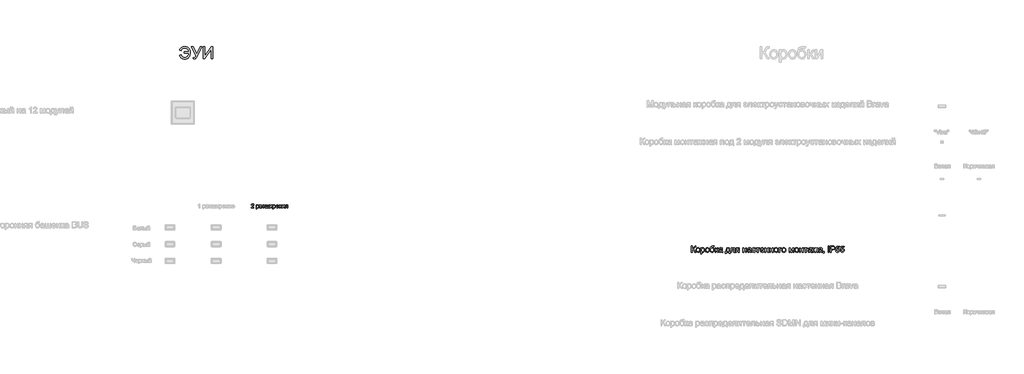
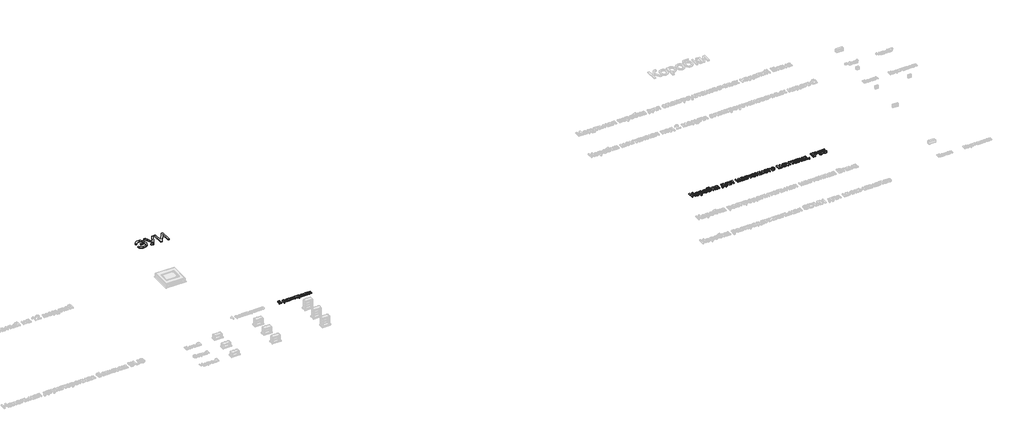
# One storey, part 37 of 48: 3 proxies.
"""IFC4 building model written with IfcOpenShell, lengths in millimetres."""

from ifc_helpers import new_model, si_unit, origin, origin_with_axes, place, context, project, spatial, polyline, outline, extrude, element, save

model = new_model("IFC4")

# Units and contexts
model_context = context("Model", 3, world=origin())
ifc_project = project(units=[si_unit("LENGTHUNIT", "METRE", prefix="MILLI")], contexts=[model_context])

# Site, building, storey
site = spatial("IfcSite", under=ifc_project)
building = spatial("IfcBuilding", under=site)
storey = spatial("IfcBuildingStorey", under=building, Name="Этаж 01", Elevation=0.0)

# Proxies
placement = place(None, origin())
element("IfcBuildingElementProxy", 1, Name="150 мм Arial", ObjectType="150 мм Arial", at=placement, inside=storey, context=model_context, shape_type="SweptSolid", body=[
    extrude(outline(polyline([(38425.9397381, 577.4743136), (38444.7752962, 577.4743136), (38444.7752962, 511.54986), (38457.5270059, 512.7960603), (38465.8365405, 516.5346611), (38480.5334262, 541.7529718), (38490.9260925, 562.814216), (38502.6983164, 573.2436706), (38519.5289177, 577.4743136), (38531.8897527, 577.2535844), (38531.8897527, 558.4180262), (38527.7326861, 558.5283908), (38523.5756196, 558.6387554), (38508.8603398, 554.1138069), (38497.6767271, 534.7264257), (38484.3410048, 511.1084016), (38471.3363763, 503.3093033), (38485.8769121, 494.7928351), (38500.2151129, 477.0425289), (38531.8897527, 426.7898483), (38510.0375622, 426.7898483), (38483.2557529, 469.2434306), (38464.4018007, 491.4083208), (38455.696793, 495.9194738), (38444.7752962, 497.4231914), (38444.7752962, 426.7898483), (38425.9397381, 426.7898483), (38425.9397381, 577.4743136)])), origin_with_axes(), (0.0, 0.0, 1.0), 20.0),
    extrude(outline(polyline([(38541.3075318, 482.1193004), (38545.3818249, 508.7999421), (38557.6047042, 527.5527268), (38572.7062601, 536.7405796), (38590.7876601, 539.8031973), (38610.5751129, 536.0737935), (38626.3802432, 524.8855823), (38636.7407198, 507.1214805), (38640.1942121, 483.6644048), (38638.6675018, 464.6357086), (38634.087371, 450.150355), (38626.5871768, 439.3024347), (38616.3002765, 431.1860382), (38604.0819957, 426.1230622), (38590.7876601, 424.4354036), (38570.761084, 428.1510117), (38554.9743479, 439.2978362), (38544.7242358, 457.4344185), (38541.3075318, 482.1193004)]), holes=[polyline([(38560.1430899, 482.1560886), (38562.3227907, 465.1093567), (38568.8618932, 452.9646523), (38578.7027366, 445.6943844), (38590.7876601, 443.2709617), (38602.8174014, 445.7081799), (38612.6398506, 453.0198346), (38619.1789531, 465.3254873), (38621.3586539, 482.7446998), (38619.1651575, 499.2947911), (38612.5846683, 511.2739485), (38602.7484235, 518.5442165), (38590.7876601, 520.9676391), (38578.7027366, 518.5534135), (38568.8618932, 511.3107367), (38562.3227907, 499.1936235), (38560.1430899, 482.1560886)])]), origin_with_axes(), (0.0, 0.0, 1.0), 20.0),
    extrude(outline(polyline([(38661.384215, 384.4098425), (38661.384215, 537.4487525), (38680.2197731, 537.4487525), (38680.2197731, 518.9810763), (38693.2427958, 534.597667), (38710.8275551, 539.8031973), (38723.5654692, 537.9821814), (38734.7030966, 532.5191337), (38743.7713878, 523.7451482), (38750.3012932, 511.9913184), (38755.5620058, 482.965429), (38754.0766822, 466.8567961), (38749.6207115, 452.4496175), (38742.336648, 440.4750586), (38732.367046, 431.6642848), (38720.7557705, 426.2426239), (38708.5466868, 424.4354036), (38692.1575439, 429.2730518), (38680.2197731, 441.5051281), (38680.2197731, 384.4098425), (38661.384215, 384.4098425)]), holes=[polyline([(38680.2197731, 481.2363836), (38682.2569197, 464.3506), (38688.3683593, 452.541588), (38697.3860667, 445.5886183), (38708.1420166, 443.2709617), (38719.0727104, 445.6713917), (38728.320344, 452.8726818), (38734.6249217, 465.1139552), (38736.7264476, 482.6343352), (38734.6755055, 499.4281483), (38728.5226791, 511.4027072), (38719.5187673, 518.5764061), (38708.9145688, 520.9676391), (38698.2689835, 518.4246548), (38688.9201823, 510.7957019), (38682.3948754, 498.3199038), (38680.2197731, 481.2363836)])]), origin_with_axes(), (0.0, 0.0, 1.0), 20.0),
    extrude(outline(polyline([(38772.0431191, 482.1193004), (38776.1174122, 508.7999421), (38788.3402915, 527.5527268), (38803.4418474, 536.7405796), (38821.5232475, 539.8031973), (38841.3107003, 536.0737935), (38857.1158305, 524.8855823), (38867.4763072, 507.1214805), (38870.9297994, 483.6644048), (38869.4030892, 464.6357086), (38864.8229583, 450.150355), (38857.3227642, 439.3024347), (38847.0358639, 431.1860382), (38834.8175831, 426.1230622), (38821.5232475, 424.4354036), (38801.4966714, 428.1510117), (38785.7099353, 439.2978362), (38775.4598232, 457.4344185), (38772.0431191, 482.1193004)]), holes=[polyline([(38790.8786773, 482.1560886), (38793.0583781, 465.1093567), (38799.5974806, 452.9646523), (38809.438324, 445.6943844), (38821.5232475, 443.2709617), (38833.5529887, 445.7081799), (38843.375438, 453.0198346), (38849.9145405, 465.3254873), (38852.0942413, 482.7446998), (38849.9007449, 499.2947911), (38843.3202557, 511.2739485), (38833.4840109, 518.5442165), (38821.5232475, 520.9676391), (38809.438324, 518.5534135), (38799.5974806, 511.3107367), (38793.0583781, 499.1936235), (38790.8786773, 482.1560886)])]), origin_with_axes(), (0.0, 0.0, 1.0), 20.0),
    extrude(outline(polyline([(38969.8164798, 579.8287583), (38986.2975931, 579.8287583), (38981.4415508, 565.1318726), (38971.8398307, 559.8159778), (38948.7736296, 558.6387554), (38917.7059951, 554.2977479), (38910.5782815, 548.6507592), (38905.7866185, 540.3918084), (38901.7583106, 515.780503), (38918.0738771, 533.8067207), (38927.9928954, 538.3040781), (38939.0983332, 539.8031973), (38958.6972464, 535.9910201), (38974.5989457, 524.5544886), (38985.1387649, 506.6156428), (38988.6520379, 483.2965228), (38986.909197, 465.3162903), (38981.6806741, 450.886119), (38965.1443784, 431.333191), (38953.8504012, 426.1598504), (38939.0983332, 424.4354036), (38922.0975865, 426.6564911), (38909.3550738, 433.3197537), (38899.9786815, 443.4457057), (38893.0762956, 456.054861), (38888.8272585, 475.0421705), (38887.4109128, 504.3025847), (38890.9839667, 540.4423922), (38901.7031283, 562.4831223), (38919.8351122, 573.7265157), (38945.6466327, 577.4743136), (38966.6159064, 577.8973779), (38969.8164798, 579.8287583)]), holes=[polyline([(38969.8164798, 483.885134), (38967.7747347, 498.7061799), (38961.6494995, 510.5749727), (38951.8086561, 518.3694725), (38938.6200866, 520.9676391), (38924.870497, 518.2223197), (38914.6709687, 509.9863615), (38908.3525954, 497.1610755), (38906.246471, 480.6477724), (38908.5733246, 464.6403071), (38915.5538855, 452.8910759), (38925.9465518, 445.6759903), (38938.509722, 443.2709617), (38951.1372714, 446.0530693), (38961.1344647, 454.3993921), (38967.645976, 467.3350427), (38969.8164798, 483.885134)])]), origin_with_axes(), (0.0, 0.0, 1.0), 20.0),
    extrude(outline(polyline([(39012.1964856, 537.4487525), (39031.0320437, 537.4487525), (39031.0320437, 490.3598571), (39043.6503962, 493.7443715), (39053.9878802, 513.4628464), (39062.5779248, 530.4773887), (39070.1562939, 536.0140127), (39083.9334747, 537.4487525), (39087.5387182, 537.4487525), (39087.5387182, 518.5028297), (39082.4619467, 518.6131943), (39073.2648968, 516.6266316), (39066.7901737, 504.2290083), (39059.1934105, 490.8197096), (39048.5432267, 484.253016), (39060.4258152, 476.9229672), (39072.0876744, 461.4811205), (39092.2476077, 426.7898483), (39070.8368756, 426.7898483), (39051.0816125, 460.7453565), (39041.1487986, 475.1111484), (39031.0320437, 478.5876333), (39031.0320437, 426.7898483), (39012.1964856, 426.7898483), (39012.1964856, 537.4487525)])), origin_with_axes(), (0.0, 0.0, 1.0), 20.0),
    extrude(outline(polyline([(39174.6531747, 440.9165169), (39156.3878336, 428.1510117), (39136.2095062, 424.4354036), (39120.4687553, 426.6702867), (39108.8574798, 433.374936), (39101.6975765, 443.5560703), (39099.3109421, 456.2204079), (39102.9161856, 471.1196288), (39112.389147, 481.9353594), (39125.5777165, 488.1157769), (39141.8748889, 490.9484683), (39174.5428101, 497.4231914), (39174.6531747, 501.6170462), (39173.3563906, 510.0231497), (39169.4660385, 515.5229856), (39160.7656293, 519.6064757), (39148.6439176, 520.9676391), (39129.5876303, 517.3440014), (39120.500945, 504.4865257), (39101.6653868, 506.8409705), (39109.813973, 525.2350702), (39126.22151, 536.0140127), (39151.0719388, 539.8031973), (39173.8990166, 536.4554711), (39186.7932805, 528.0493675), (39192.5690278, 515.2654682), (39193.4887328, 498.7843548), (39193.4887328, 475.3502717), (39194.445226, 442.6271682), (39198.1976224, 426.7898483), (39179.3620642, 426.7898483), (39174.6531747, 440.9165169)]), holes=[polyline([(39174.6531747, 478.5876333), (39144.2661219, 472.8118859), (39128.06092, 469.7584654), (39120.7216742, 464.7920584), (39118.1465002, 457.5447831), (39123.7567006, 447.3544519), (39140.2194199, 443.2709617), (39159.2757073, 447.7775162), (39171.5629659, 458.6852173), (39174.5428101, 473.2533443), (39174.6531747, 478.5876333)])]), origin_with_axes(), (0.0, 0.0, 1.0), 20.0),
    extrude(outline(polyline([(39294.7298579, 537.4487525), (39365.363201, 537.4487525), (39365.363201, 445.6254065), (39379.4898696, 445.6254065), (39379.4898696, 396.1820663), (39360.6543114, 396.1820663), (39360.6543114, 426.7898483), (39282.957634, 426.7898483), (39282.957634, 396.1820663), (39264.1220759, 396.1820663), (39264.1220759, 445.6254065), (39275.8942997, 445.6254065), (39284.4521547, 461.0902459), (39290.4440326, 481.5490833), (39294.7298579, 537.4487525)]), holes=[polyline([(39311.2109713, 518.6131943), (39306.7963873, 475.6997596), (39297.0843027, 445.6254065), (39346.5276428, 445.6254065), (39346.5276428, 518.6131943), (39311.2109713, 518.6131943)])]), origin_with_axes(), (0.0, 0.0, 1.0), 20.0),
    extrude(outline(polyline([(39410.0976516, 537.4487525), (39494.8576633, 537.4487525), (39494.8576633, 426.9002129), (39476.0221051, 426.9002129), (39476.0221051, 518.6131943), (39428.9332097, 518.6131943), (39428.9332097, 465.822128), (39427.6640168, 441.4683399), (39420.692653, 431.1860382), (39404.2115397, 426.7898483), (39388.9076487, 427.7463415), (39388.9076487, 445.6254065), (39397.3321463, 445.6254065), (39405.8486145, 446.7842348), (39409.251523, 450.4630547), (39410.0976516, 466.8889858), (39410.0976516, 537.4487525)])), origin_with_axes(), (0.0, 0.0, 1.0), 20.0),
    extrude(outline(polyline([(39607.8710122, 537.4487525), (39607.8710122, 426.7898483), (39589.035454, 426.7898483), (39589.035454, 469.1698542), (39578.7715464, 469.1698542), (39564.7920306, 466.7786212), (39551.6586433, 450.702178), (39536.6490579, 426.7898483), (39514.8704438, 426.7898483), (39533.7795784, 457.0297483), (39542.1304996, 467.8822672), (39549.8192333, 472.7015213), (39536.9433635, 476.6470557), (39527.8934664, 484.1426514), (39522.5407834, 494.1122534), (39520.7565557, 505.4798071), (39523.1937739, 518.374071), (39530.5054286, 528.5827964), (39542.4340023, 535.2322635), (39558.7219776, 537.4487525), (39607.8710122, 537.4487525)]), holes=[polyline([(39589.035454, 518.6131943), (39564.2034194, 518.6131943), (39551.3781333, 517.5233439), (39544.0986683, 514.2537927), (39539.5921139, 504.0450673), (39541.2521814, 496.8667699), (39546.2323839, 491.8865674), (39569.7584375, 488.0054123), (39589.035454, 488.0054123), (39589.035454, 518.6131943)])]), origin_with_axes(), (0.0, 0.0, 1.0), 20.0),
    extrude(outline(polyline([(39694.9854686, 537.4487525), (39713.8210268, 537.4487525), (39713.8210268, 495.0687466), (39763.2643669, 495.0687466), (39763.2643669, 537.4487525), (39782.0999251, 537.4487525), (39782.0999251, 426.7898483), (39763.2643669, 426.7898483), (39763.2643669, 476.2331885), (39713.8210268, 476.2331885), (39713.8210268, 426.7898483), (39694.9854686, 426.7898483), (39694.9854686, 537.4487525)])), origin_with_axes(), (0.0, 0.0, 1.0), 20.0),
    extrude(outline(polyline([(39880.9866054, 440.9165169), (39862.7212643, 428.1510117), (39842.5429369, 424.4354036), (39826.802186, 426.6702867), (39815.1909106, 433.374936), (39808.0310072, 443.5560703), (39805.6443728, 456.2204079), (39809.2496163, 471.1196288), (39818.7225777, 481.9353594), (39831.9111472, 488.1157769), (39848.2083196, 490.9484683), (39880.8762408, 497.4231914), (39880.9866054, 501.6170462), (39879.6898214, 510.0231497), (39875.7994693, 515.5229856), (39867.0990601, 519.6064757), (39854.9773483, 520.9676391), (39835.921061, 517.3440014), (39826.8343757, 504.4865257), (39807.9988176, 506.8409705), (39816.1474038, 525.2350702), (39832.5549407, 536.0140127), (39857.4053695, 539.8031973), (39880.2324473, 536.4554711), (39893.1267112, 528.0493675), (39898.9024586, 515.2654682), (39899.8221636, 498.7843548), (39899.8221636, 475.3502717), (39900.7786567, 442.6271682), (39904.5310531, 426.7898483), (39885.6954949, 426.7898483), (39880.9866054, 440.9165169)]), holes=[polyline([(39880.9866054, 478.5876333), (39850.5995526, 472.8118859), (39834.3943507, 469.7584654), (39827.0551049, 464.7920584), (39824.4799309, 457.5447831), (39830.0901314, 447.3544519), (39846.5528507, 443.2709617), (39865.609138, 447.7775162), (39877.8963966, 458.6852173), (39880.8762408, 473.2533443), (39880.9866054, 478.5876333)])]), origin_with_axes(), (0.0, 0.0, 1.0), 20.0),
    extrude(outline(polyline([(39996.3543991, 466.8154094), (40015.1899572, 464.4609646), (40009.9384418, 447.7085383), (40000.0700072, 435.0487991), (39986.5135557, 427.0887525), (39970.1979892, 424.4354036), (39950.1622161, 428.1372161), (39934.4950416, 439.2426539), (39924.3828853, 457.2642731), (39921.0121665, 481.7146302), (39922.4515048, 498.4762536), (39926.7695197, 513.0029939), (39934.0351891, 524.733831), (39944.3174909, 533.1077449), (39956.6185451, 538.1293342), (39969.9404718, 539.8031973), (39985.8559667, 537.5039348), (39998.5800852, 530.6061474), (40007.7081572, 519.477717), (40012.8355125, 504.4865257), (39993.9999543, 502.1320809), (39985.2627569, 516.2403555), (39970.0876246, 520.9676391), (39957.9153291, 518.6407855), (39948.2538282, 511.6602246), (39941.9492505, 499.6488775), (39939.8477246, 482.229665), (39941.9032653, 464.5759278), (39948.0698872, 452.5231939), (39957.5566442, 445.5840198), (39969.5725898, 443.2709617), (39979.3260612, 444.7148985), (39987.3228961, 449.046709), (39993.1400302, 456.3767578), (39996.3543991, 466.8154094)])), origin_with_axes(), (0.0, 0.0, 1.0), 20.0),
    extrude(outline(polyline([(40022.2532916, 537.4487525), (40111.7221928, 537.4487525), (40111.7221928, 518.6131943), (40076.4055212, 518.6131943), (40076.4055212, 426.7898483), (40057.5699631, 426.7898483), (40057.5699631, 518.6131943), (40022.2532916, 518.6131943), (40022.2532916, 537.4487525)])), origin_with_axes(), (0.0, 0.0, 1.0), 20.0),
    extrude(outline(polyline([(40205.6792543, 459.7520751), (40224.1469305, 457.3976303), (40217.4928649, 443.4824939), (40206.8748708, 433.0806304), (40192.5320715, 426.5967103), (40174.7035904, 424.4354036), (40152.6030795, 428.1648073), (40135.5977343, 439.3530185), (40124.7544125, 457.2734702), (40121.1399719, 481.1995954), (40124.7912007, 505.9304625), (40135.7448871, 524.4257299), (40152.520306, 535.9588304), (40173.6367326, 539.8031973), (40194.09557, 535.9680275), (40210.4433262, 524.4625181), (40221.1624878, 506.0040389), (40224.7355417, 481.30996), (40224.6251771, 476.2331885), (40139.97553, 476.2331885), (40143.2358842, 462.134111), (40150.8096548, 451.7690358), (40161.7403485, 445.3954802), (40175.0714723, 443.2709617), (40193.5391485, 447.2072991), (40205.6792543, 459.7520751)]), holes=[polyline([(40139.97553, 495.0687466), (40205.8999835, 495.0687466), (40203.3524007, 505.0199546), (40198.3584026, 512.1384712), (40187.3771251, 518.7603471), (40173.5631562, 520.9676391), (40160.8666288, 519.206404), (40150.3681964, 513.9226989), (40143.0703373, 505.6867407), (40139.97553, 495.0687466)])]), origin_with_axes(), (0.0, 0.0, 1.0), 20.0),
    extrude(outline(polyline([(40243.5710999, 537.4487525), (40262.406658, 537.4487525), (40262.406658, 495.0687466), (40311.8499982, 495.0687466), (40311.8499982, 537.4487525), (40330.6855563, 537.4487525), (40330.6855563, 426.7898483), (40311.8499982, 426.7898483), (40311.8499982, 476.2331885), (40262.406658, 476.2331885), (40262.406658, 426.7898483), (40243.5710999, 426.7898483), (40243.5710999, 537.4487525)])), origin_with_axes(), (0.0, 0.0, 1.0), 20.0),
    extrude(outline(polyline([(40358.9388935, 537.4487525), (40377.7744517, 537.4487525), (40377.7744517, 495.0687466), (40427.2177918, 495.0687466), (40427.2177918, 537.4487525), (40446.05335, 537.4487525), (40446.05335, 426.7898483), (40427.2177918, 426.7898483), (40427.2177918, 476.2331885), (40377.7744517, 476.2331885), (40377.7744517, 426.7898483), (40358.9388935, 426.7898483), (40358.9388935, 537.4487525)])), origin_with_axes(), (0.0, 0.0, 1.0), 20.0),
    extrude(outline(polyline([(40469.5977977, 482.1193004), (40473.6720908, 508.7999421), (40485.8949701, 527.5527268), (40500.996526, 536.7405796), (40519.077926, 539.8031973), (40538.8653789, 536.0737935), (40554.6705091, 524.8855823), (40565.0309858, 507.1214805), (40568.484478, 483.6644048), (40566.9577677, 464.6357086), (40562.3776369, 450.150355), (40554.8774427, 439.3024347), (40544.5905424, 431.1860382), (40532.3722616, 426.1230622), (40519.077926, 424.4354036), (40499.0513499, 428.1510117), (40483.2646138, 439.2978362), (40473.0145017, 457.4344185), (40469.5977977, 482.1193004)]), holes=[polyline([(40488.4333558, 482.1560886), (40490.6130567, 465.1093567), (40497.1521591, 452.9646523), (40506.9930025, 445.6943844), (40519.077926, 443.2709617), (40531.1076673, 445.7081799), (40540.9301166, 453.0198346), (40547.469219, 465.3254873), (40549.6489198, 482.7446998), (40547.4554234, 499.2947911), (40540.8749343, 511.2739485), (40531.0386894, 518.5442165), (40519.077926, 520.9676391), (40506.9930025, 518.5534135), (40497.1521591, 511.3107367), (40490.6130567, 499.1936235), (40488.4333558, 482.1560886)])]), origin_with_axes(), (0.0, 0.0, 1.0), 20.0),
    extrude(outline(polyline([(40589.6744809, 537.4487525), (40650.8900449, 537.4487525), (40650.8900449, 518.6131943), (40608.5100391, 518.6131943), (40608.5100391, 426.7898483), (40589.6744809, 426.7898483), (40589.6744809, 537.4487525)])), origin_with_axes(), (0.0, 0.0, 1.0), 20.0),
    extrude(outline(polyline([(40660.307824, 482.1193004), (40664.3821171, 508.7999421), (40676.6049964, 527.5527268), (40691.7065523, 536.7405796), (40709.7879523, 539.8031973), (40729.5754052, 536.0737935), (40745.3805354, 524.8855823), (40755.7410121, 507.1214805), (40759.1945043, 483.6644048), (40757.667794, 464.6357086), (40753.0876632, 450.150355), (40745.587469, 439.3024347), (40735.3005687, 431.1860382), (40723.0822879, 426.1230622), (40709.7879523, 424.4354036), (40689.7613762, 428.1510117), (40673.9746401, 439.2978362), (40663.724528, 457.4344185), (40660.307824, 482.1193004)]), holes=[polyline([(40679.1433821, 482.1560886), (40681.323083, 465.1093567), (40687.8621854, 452.9646523), (40697.7030288, 445.6943844), (40709.7879523, 443.2709617), (40721.8176936, 445.7081799), (40731.6401429, 453.0198346), (40738.1792453, 465.3254873), (40740.3589461, 482.7446998), (40738.1654497, 499.2947911), (40731.5849606, 511.2739485), (40721.7487157, 518.5442165), (40709.7879523, 520.9676391), (40697.7030288, 518.5534135), (40687.8621854, 511.3107367), (40681.323083, 499.1936235), (40679.1433821, 482.1560886)])]), origin_with_axes(), (0.0, 0.0, 1.0), 20.0),
    extrude(outline(polyline([(40839.2456264, 537.4487525), (40871.6560302, 537.4487525), (40896.6352177, 448.862768), (40923.5641797, 537.4487525), (40954.6134201, 537.4487525), (40954.6134201, 426.7898483), (40935.777862, 426.7898483), (40935.777862, 515.8908676), (40908.7017471, 426.7898483), (40883.9800771, 426.7898483), (40858.0811846, 520.1582987), (40858.0811846, 426.7898483), (40839.2456264, 426.7898483), (40839.2456264, 537.4487525)])), origin_with_axes(), (0.0, 0.0, 1.0), 20.0),
    extrude(outline(polyline([(40978.1578678, 482.1193004), (40982.2321609, 508.7999421), (40994.4550402, 527.5527268), (41009.5565961, 536.7405796), (41027.6379962, 539.8031973), (41047.425449, 536.0737935), (41063.2305792, 524.8855823), (41073.5910559, 507.1214805), (41077.0445481, 483.6644048), (41075.5178378, 464.6357086), (41070.937707, 450.150355), (41063.4375128, 439.3024347), (41053.1506125, 431.1860382), (41040.9323318, 426.1230622), (41027.6379962, 424.4354036), (41007.6114201, 428.1510117), (40991.8246839, 439.2978362), (40981.5745719, 457.4344185), (40978.1578678, 482.1193004)]), holes=[polyline([(40996.993426, 482.1560886), (40999.1731268, 465.1093567), (41005.7122293, 452.9646523), (41015.5530726, 445.6943844), (41027.6379962, 443.2709617), (41039.6677374, 445.7081799), (41049.4901867, 453.0198346), (41056.0292891, 465.3254873), (41058.20899, 482.7446998), (41056.0154936, 499.2947911), (41049.4350044, 511.2739485), (41039.5987595, 518.5442165), (41027.6379962, 520.9676391), (41015.5530726, 518.5534135), (41005.7122293, 511.3107367), (40999.1731268, 499.1936235), (40996.993426, 482.1560886)])]), origin_with_axes(), (0.0, 0.0, 1.0), 20.0),
    extrude(outline(polyline([(41098.234551, 537.4487525), (41117.0701092, 537.4487525), (41117.0701092, 495.0687466), (41166.5134494, 495.0687466), (41166.5134494, 537.4487525), (41185.3490075, 537.4487525), (41185.3490075, 426.7898483), (41166.5134494, 426.7898483), (41166.5134494, 476.2331885), (41117.0701092, 476.2331885), (41117.0701092, 426.7898483), (41098.234551, 426.7898483), (41098.234551, 537.4487525)])), origin_with_axes(), (0.0, 0.0, 1.0), 20.0),
    extrude(outline(polyline([(41204.1845657, 537.4487525), (41293.6534669, 537.4487525), (41293.6534669, 518.6131943), (41258.3367953, 518.6131943), (41258.3367953, 426.7898483), (41239.5012372, 426.7898483), (41239.5012372, 518.6131943), (41204.1845657, 518.6131943), (41204.1845657, 537.4487525)])), origin_with_axes(), (0.0, 0.0, 1.0), 20.0),
    extrude(outline(polyline([(41380.7679233, 440.9165169), (41362.5025823, 428.1510117), (41342.3242548, 424.4354036), (41326.583504, 426.6702867), (41314.9722285, 433.374936), (41307.8123252, 443.5560703), (41305.4256907, 456.2204079), (41309.0309343, 471.1196288), (41318.5038957, 481.9353594), (41331.6924652, 488.1157769), (41347.9896376, 490.9484683), (41380.6575587, 497.4231914), (41380.7679233, 501.6170462), (41379.4711393, 510.0231497), (41375.5807872, 515.5229856), (41366.880378, 519.6064757), (41354.7586663, 520.9676391), (41335.7023789, 517.3440014), (41326.6156937, 504.4865257), (41307.7801355, 506.8409705), (41315.9287217, 525.2350702), (41332.3362587, 536.0140127), (41357.1866875, 539.8031973), (41380.0137653, 536.4554711), (41392.9080292, 528.0493675), (41398.6837765, 515.2654682), (41399.6034815, 498.7843548), (41399.6034815, 475.3502717), (41400.5599747, 442.6271682), (41404.312371, 426.7898483), (41385.4768129, 426.7898483), (41380.7679233, 440.9165169)]), holes=[polyline([(41380.7679233, 478.5876333), (41350.3808705, 472.8118859), (41334.1756687, 469.7584654), (41326.8364228, 464.7920584), (41324.2612489, 457.5447831), (41329.8714493, 447.3544519), (41346.3341686, 443.2709617), (41365.3904559, 447.7775162), (41377.6777146, 458.6852173), (41380.6575587, 473.2533443), (41380.7679233, 478.5876333)])]), origin_with_axes(), (0.0, 0.0, 1.0), 20.0),
    extrude(outline(polyline([(41493.7812723, 537.4487525), (41493.7812723, 490.3598571), (41504.7625498, 494.2410121), (41515.1552162, 514.3825514), (41527.5528394, 533.6963561), (41545.174387, 537.4487525), (41552.6423915, 537.4487525), (41552.6423915, 518.5028297), (41547.4552554, 518.6131943), (41537.7431707, 516.6634198), (41531.0109302, 504.4497375), (41523.1934378, 491.0588329), (41512.0282192, 484.253016), (41524.343069, 476.9229672), (41536.3452191, 461.4811205), (41557.351281, 426.7898483), (41535.7566079, 426.7898483), (41515.0816398, 461.0028739), (41504.5418206, 475.221513), (41493.7812723, 478.5876333), (41493.7812723, 426.7898483), (41474.9457141, 426.7898483), (41474.9457141, 478.5876333), (41464.2219539, 475.2950894), (41453.6085584, 461.0764503), (41432.9335903, 426.7898483), (41411.3757053, 426.7898483), (41432.3081909, 461.4811205), (41444.4023115, 476.9229672), (41456.7723435, 484.253016), (41444.9265433, 491.7578087), (41434.7730002, 511.0716134), (41429.8065933, 517.4359719), (41421.6764012, 518.7235589), (41416.0845949, 518.6131943), (41416.0845949, 537.4487525), (41418.9172862, 537.4487525), (41435.4351878, 536.2715301), (41444.0068383, 531.268335), (41453.6085584, 514.3825514), (41463.8908602, 494.3697708), (41474.9457141, 490.3598571), (41474.9457141, 537.4487525), (41493.7812723, 537.4487525)])), origin_with_axes(), (0.0, 0.0, 1.0), 20.0),
    extrude(outline(polyline([(41637.4024032, 440.9165169), (41619.1370621, 428.1510117), (41598.9587347, 424.4354036), (41583.2179838, 426.6702867), (41571.6067083, 433.374936), (41564.446805, 443.5560703), (41562.0601706, 456.2204079), (41565.6654141, 471.1196288), (41575.1383755, 481.9353594), (41588.326945, 488.1157769), (41604.6241174, 490.9484683), (41637.2920386, 497.4231914), (41637.4024032, 501.6170462), (41636.1056191, 510.0231497), (41632.215267, 515.5229856), (41623.5148579, 519.6064757), (41611.3931461, 520.9676391), (41592.3368588, 517.3440014), (41583.2501735, 504.4865257), (41564.4146153, 506.8409705), (41572.5632015, 525.2350702), (41588.9707385, 536.0140127), (41613.8211673, 539.8031973), (41636.6482451, 536.4554711), (41649.542509, 528.0493675), (41655.3182563, 515.2654682), (41656.2379613, 498.7843548), (41656.2379613, 475.3502717), (41657.1944545, 442.6271682), (41660.9468509, 426.7898483), (41642.1112927, 426.7898483), (41637.4024032, 440.9165169)]), holes=[polyline([(41637.4024032, 478.5876333), (41607.0153504, 472.8118859), (41590.8101485, 469.7584654), (41583.4709027, 464.7920584), (41580.8957287, 457.5447831), (41586.5059291, 447.3544519), (41602.9686484, 443.2709617), (41622.0249358, 447.7775162), (41634.3121944, 458.6852173), (41637.2920386, 473.2533443), (41637.4024032, 478.5876333)])]), origin_with_axes(), (0.0, 0.0, 1.0), 20.0),
    extrude(outline(polyline([(41686.8457433, 426.7898483), (41686.8457433, 445.6254065), (41705.6813015, 445.6254065), (41705.6813015, 426.7898483), (41702.2967871, 407.5312259), (41691.5546329, 396.1820663), (41686.8457433, 403.2454006), (41693.7619248, 411.3755927), (41696.2267342, 426.7898483), (41686.8457433, 426.7898483)])), origin_with_axes(), (0.0, 0.0, 1.0), 20.0),
    extrude(outline(polyline([(41804.5679818, 426.7898483), (41804.5679818, 577.4743136), (41823.4035399, 577.4743136), (41823.4035399, 426.7898483), (41804.5679818, 426.7898483)])), origin_with_axes(), (0.0, 0.0, 1.0), 20.0),
    extrude(outline(polyline([(41861.0746562, 426.7898483), (41861.0746562, 577.4743136), (41916.9191431, 577.4743136), (41939.4335212, 576.0395738), (41957.7356505, 568.9946336), (41969.5998448, 554.4265066), (41974.0880052, 533.8802971), (41971.0575772, 516.1207938), (41961.9662934, 501.3227406), (41944.9655467, 491.3347444), (41918.2067301, 488.0054123), (41879.9102144, 488.0054123), (41879.9102144, 426.7898483), (41861.0746562, 426.7898483)]), holes=[polyline([(41879.9102144, 506.8409705), (41919.3103761, 506.8409705), (41936.0122187, 508.5700159), (41947.0486785, 513.757152), (41953.2015049, 522.0804821), (41955.252447, 533.2181095), (41950.4147988, 548.8163061), (41937.7044758, 557.3511684), (41918.8689177, 558.6387554), (41879.9102144, 558.6387554), (41879.9102144, 506.8409705)])]), origin_with_axes(), (0.0, 0.0, 1.0), 20.0),
    extrude(outline(polyline([(41992.9235633, 466.8154094), (42011.7591215, 469.1698542), (42015.2172122, 457.8620813), (42021.2504769, 449.7640789), (42029.8313245, 444.894241), (42040.9321637, 443.2709617), (42054.4334329, 445.5288375), (42064.5501878, 452.3024647), (42070.868561, 462.8100942), (42072.9746855, 476.2699767), (42071.0019183, 488.9435114), (42065.0836167, 498.637202), (42055.1737954, 504.7900284), (42041.2264693, 506.8409705), (42024.6901736, 503.5668207), (42014.1135662, 495.0687466), (41995.2780081, 497.4231914), (42011.7591215, 575.1198688), (42084.7469093, 575.1198688), (42084.7469093, 556.2843106), (42026.9894361, 556.2843106), (42018.9328204, 514.7872216), (42032.3881043, 522.9542019), (42046.4871818, 525.6765286), (42064.0857368, 522.3012113), (42078.6952505, 512.1752594), (42088.5314953, 496.7426097), (42091.8102436, 477.4471991), (42088.8579906, 458.6116409), (42080.0012316, 442.4984095), (42063.0418716, 428.9511551), (42040.8585873, 424.4354036), (42022.3587215, 427.3370728), (42007.620449, 436.0420805), (41997.5174897, 449.5387512), (41992.9235633, 466.8154094)])), origin_with_axes(), (0.0, 0.0, 1.0), 20.0),
    extrude(outline(polyline([(42108.291357, 466.8154094), (42127.1269152, 469.1698542), (42130.5850059, 457.8620813), (42136.6182706, 449.7640789), (42145.1991182, 444.894241), (42156.2999574, 443.2709617), (42169.8012266, 445.5288375), (42179.9179815, 452.3024647), (42186.2363547, 462.8100942), (42188.3424792, 476.2699767), (42186.369712, 488.9435114), (42180.4514104, 498.637202), (42170.5415891, 504.7900284), (42156.594263, 506.8409705), (42140.0579673, 503.5668207), (42129.4813599, 495.0687466), (42110.6458018, 497.4231914), (42127.1269152, 575.1198688), (42200.114703, 575.1198688), (42200.114703, 556.2843106), (42142.3572298, 556.2843106), (42134.3006141, 514.7872216), (42147.755898, 522.9542019), (42161.8549755, 525.6765286), (42179.4535304, 522.3012113), (42194.0630442, 512.1752594), (42203.899289, 496.7426097), (42207.1780373, 477.4471991), (42204.2257843, 458.6116409), (42195.3690253, 442.4984095), (42178.4096653, 428.9511551), (42156.226381, 424.4354036), (42137.7265151, 427.3370728), (42122.9882427, 436.0420805), (42112.8852834, 449.5387512), (42108.291357, 466.8154094)])), origin_with_axes(), (0.0, 0.0, 1.0), 20.0),
])
element("IfcBuildingElementProxy", 2, Name="300 мм Arial", ObjectType="300 мм Arial", at=placement, inside=storey, context=model_context, shape_type="SweptSolid", body=[
    extrude(outline(polyline([(25892.2439846, 5383.9192769), (26005.2573335, 5383.9192769), (26002.5579994, 5404.4677856), (25996.9615945, 5422.7768127), (25988.468119, 5438.8463581), (25977.0775727, 5452.6764218), (25963.0152834, 5463.7979544), (25946.5065789, 5471.7419062), (25927.5514591, 5476.5082773), (25906.149924, 5478.0970677), (25875.7306815, 5474.2710949), (25851.5010536, 5462.7931767), (25833.4610403, 5443.6633129), (25821.6106415, 5416.8815037), (25783.9395252, 5426.2992828), (25790.726948, 5446.1925017), (25800.0527566, 5463.7864581), (25811.916951, 5479.081152), (25826.3195311, 5492.0765835), (25842.9431987, 5502.4416587), (25861.4706557, 5509.8452839), (25881.901902, 5514.287459), (25904.2369376, 5515.768184), (25945.3109624, 5510.3327275), (25980.2413579, 5494.0263581), (26007.9888573, 5469.2678998), (26027.5141942, 5438.4761768), (26039.0748859, 5402.8743967), (26042.9284498, 5363.6857672), (26041.755826, 5331.4662022), (26035.957086, 5301.9091831), (26025.53223, 5275.01471), (26010.4812579, 5250.7827829), (25990.8409578, 5230.7447104), (25966.6481181, 5216.4318016), (25937.9027387, 5207.8440562), (25904.6048196, 5204.9814745), (25880.9178177, 5206.5265788), (25859.5208811, 5211.161892), (25840.41401, 5218.8874139), (25823.5972043, 5229.7031445), (25809.070464, 5243.609084), (25796.8337892, 5260.6052321), (25786.8871797, 5280.6915891), (25779.2306357, 5303.8681548), (25816.901752, 5313.2859338), (25829.630469, 5282.3838463), (25849.2017912, 5260.3109265), (25875.6157184, 5247.0671747), (25908.8722508, 5242.6525908), (25928.5815287, 5244.3862347), (25946.4330025, 5249.5871664), (25962.4266722, 5258.2553859), (25976.5625379, 5270.3908932), (25988.2611853, 5285.5338358), (25996.9432004, 5303.2243613), (26002.6085832, 5323.4624695), (26005.2573335, 5346.2481606), (25892.2439846, 5346.2481606), (25892.2439846, 5383.9192769)])), origin_with_axes(), (0.0, 0.0, 1.0), 20.0),
    extrude(outline(polyline([(26073.5362318, 5511.0592945), (26115.2540501, 5511.0592945), (26205.3851389, 5332.5629504), (26286.4663306, 5511.0592945), (26327.8162669, 5511.0592945), (26213.4049664, 5276.2770051), (26196.1329067, 5239.8198994), (26182.2821496, 5218.5931083), (26167.5116875, 5208.3843829), (26147.4805129, 5204.9814745), (26113.5617929, 5209.690364), (26113.5617929, 5242.6525908), (26143.2130817, 5242.6525908), (26155.0772761, 5244.7495181), (26165.212425, 5251.0403003), (26174.9429038, 5264.7806928), (26185.5930876, 5289.2264514), (26073.5362318, 5511.0592945)])), origin_with_axes(), (0.0, 0.0, 1.0), 20.0),
    extrude(outline(polyline([(26363.1329384, 5511.0592945), (26400.8040547, 5511.0592945), (26400.8040547, 5272.377456), (26558.5518543, 5511.0592945), (26598.5774153, 5511.0592945), (26598.5774153, 5209.690364), (26560.906299, 5209.690364), (26560.906299, 5447.7100149), (26403.5263815, 5209.690364), (26363.1329384, 5209.690364), (26363.1329384, 5511.0592945)])), origin_with_axes(), (0.0, 0.0, 1.0), 20.0),
])
element("IfcBuildingElementProxy", 3, Name="100 мм Arial", ObjectType="100 мм Arial", at=placement, inside=storey, context=model_context, shape_type="SweptSolid", body=[
    extrude(outline(polyline([(27616.7034386, 1535.9332134), (27616.7034386, 1523.3761747), (27550.7789851, 1523.3761747), (27552.1278857, 1532.0336643), (27559.7553058, 1545.3632552), (27575.4761297, 1559.9191195), (27597.1566419, 1580.8393423), (27602.57677, 1595.0641128), (27597.4632103, 1606.5788192), (27584.1090938, 1611.2754461), (27570.1908917, 1606.6891838), (27564.9056537, 1594.0095177), (27552.3486149, 1595.5791476), (27555.3928384, 1607.7253848), (27561.9748605, 1616.5974722), (27571.7513245, 1622.0237317), (27584.378874, 1623.8324848), (27597.098394, 1621.8213966), (27606.8564639, 1615.7881319), (27613.0644726, 1606.775023), (27615.1338088, 1595.8244023), (27612.9019913, 1583.9172883), (27605.4830378, 1571.6055042), (27587.4936082, 1554.4008896), (27573.0481085, 1542.3220974), (27567.3827258, 1535.9332134), (27616.7034386, 1535.9332134)])), origin_with_axes(), (0.0, 0.0, 1.0), 20.0),
    extrude(outline(polyline([(27671.6404832, 1495.1228374), (27671.6404832, 1597.1487774), (27684.197522, 1597.1487774), (27684.197522, 1584.8369933), (27692.8795371, 1595.2480538), (27704.60271, 1598.7184073), (27720.5197377, 1593.8623649), (27730.9185354, 1580.1771547), (27734.4256771, 1560.8265618), (27730.4648143, 1540.4826874), (27718.9623705, 1526.625799), (27703.0821311, 1521.8065448), (27692.1560358, 1525.0316436), (27684.197522, 1533.1863612), (27684.197522, 1495.1228374), (27671.6404832, 1495.1228374)]), holes=[polyline([(27684.197522, 1559.6738649), (27685.5556197, 1548.4166758), (27689.6299128, 1540.5440011), (27695.6417177, 1535.908688), (27702.812351, 1534.3635836), (27710.0994801, 1535.9638703), (27716.2645692, 1540.7647303), (27720.467621, 1548.9255792), (27721.8686383, 1560.6058326), (27720.5013436, 1571.801708), (27716.3994593, 1579.7847473), (27710.3968514, 1584.5672132), (27703.3273858, 1586.1613685), (27696.2303289, 1584.4660457), (27689.9977948, 1579.3800771), (27685.6475902, 1571.0628783), (27684.197522, 1559.6738649)])]), origin_with_axes(), (0.0, 0.0, 1.0), 20.0),
    extrude(outline(polyline([(27795.6412411, 1532.7939537), (27783.464347, 1524.2836169), (27770.0121287, 1521.8065448), (27759.5182948, 1523.2964669), (27751.7774445, 1527.7662331), (27747.0041756, 1534.553656), (27745.413086, 1542.9965477), (27747.8165817, 1552.9293616), (27754.1318893, 1560.1398487), (27762.924269, 1564.2601271), (27773.7890506, 1566.148588), (27795.5676647, 1570.4650701), (27795.6412411, 1573.2609732), (27792.1831503, 1582.5315995), (27778.3017364, 1586.1613685), (27765.5975448, 1583.7456101), (27759.5397546, 1575.1739596), (27746.9827158, 1576.7435894), (27752.4151066, 1589.0063226), (27763.3534646, 1596.1922842), (27779.9204171, 1598.7184073), (27795.138469, 1596.4865898), (27803.734645, 1590.8825208), (27807.5851432, 1582.3599212), (27808.1982798, 1571.3725123), (27808.1982798, 1555.7497902), (27808.835942, 1533.9343879), (27811.3375395, 1523.3761747), (27798.7805008, 1523.3761747), (27795.6412411, 1532.7939537)]), holes=[polyline([(27795.6412411, 1557.9080313), (27775.3832059, 1554.0575331), (27764.5797379, 1552.0219194), (27759.6869074, 1548.7109814), (27757.9701248, 1543.8794645), (27761.7102584, 1537.0859104), (27772.6854046, 1534.3635836), (27785.3895961, 1537.3679532), (27793.5811019, 1544.639754), (27795.5676647, 1554.3518387), (27795.6412411, 1557.9080313)])]), origin_with_axes(), (0.0, 0.0, 1.0), 20.0),
    extrude(outline(polyline([(27872.5531035, 1550.0598821), (27885.1101423, 1548.4902522), (27881.609132, 1537.321968), (27875.0301756, 1528.8821419), (27865.9925413, 1523.5754441), (27855.115497, 1521.8065448), (27841.7583149, 1524.2744199), (27831.3135319, 1531.678045), (27824.5720943, 1543.6924579), (27822.3249485, 1559.9926959), (27826.1631839, 1580.8516051), (27837.8618314, 1594.2547724), (27854.9438187, 1598.7184073), (27865.5541486, 1597.1855656), (27874.0368942, 1592.5870407), (27880.1222756, 1585.1680871), (27883.5405125, 1575.1739596), (27870.9834737, 1573.6043297), (27865.1586754, 1583.0098461), (27855.0419206, 1586.1613685), (27846.9270569, 1584.6101328), (27840.4860563, 1579.9564255), (27836.2830045, 1571.9488608), (27834.8819872, 1560.3360525), (27836.2523477, 1548.5668943), (27840.363429, 1540.5317384), (27846.6879336, 1535.9056223), (27854.698564, 1534.3635836), (27866.5321015, 1538.2140818), (27872.5531035, 1550.0598821)])), origin_with_axes(), (0.0, 0.0, 1.0), 20.0),
    extrude(outline(polyline([(27896.0975512, 1597.1487774), (27908.65459, 1597.1487774), (27908.65459, 1535.9332134), (27936.9079272, 1535.9332134), (27936.9079272, 1597.1487774), (27949.464966, 1597.1487774), (27949.464966, 1535.9332134), (27977.7183032, 1535.9332134), (27977.7183032, 1597.1487774), (27990.275342, 1597.1487774), (27990.275342, 1523.3761747), (27896.0975512, 1523.3761747), (27896.0975512, 1597.1487774)])), origin_with_axes(), (0.0, 0.0, 1.0), 20.0),
    extrude(outline(polyline([(28007.5412703, 1597.1487774), (28020.0983091, 1597.1487774), (28020.0983091, 1540.8873576), (28050.9513457, 1597.1487774), (28067.1872044, 1597.1487774), (28067.1872044, 1523.3761747), (28054.6301657, 1523.3761747), (28054.6301657, 1579.2942379), (28023.9733327, 1523.3761747), (28007.5412703, 1523.3761747), (28007.5412703, 1597.1487774)])), origin_with_axes(), (0.0, 0.0, 1.0), 20.0),
    extrude(outline(polyline([(28086.0227626, 1495.1228374), (28086.0227626, 1597.1487774), (28098.5798014, 1597.1487774), (28098.5798014, 1584.8369933), (28107.2618165, 1595.2480538), (28118.9849894, 1598.7184073), (28134.902017, 1593.8623649), (28145.3008148, 1580.1771547), (28148.8079564, 1560.8265618), (28144.8470936, 1540.4826874), (28133.3446499, 1526.625799), (28117.4644105, 1521.8065448), (28106.5383152, 1525.0316436), (28098.5798014, 1533.1863612), (28098.5798014, 1495.1228374), (28086.0227626, 1495.1228374)]), holes=[polyline([(28098.5798014, 1559.6738649), (28099.9378991, 1548.4166758), (28104.0121922, 1540.5440011), (28110.0239971, 1535.908688), (28117.1946303, 1534.3635836), (28124.4817595, 1535.9638703), (28130.6468486, 1540.7647303), (28134.8499004, 1548.9255792), (28136.2509177, 1560.6058326), (28134.8836229, 1571.801708), (28130.7817387, 1579.7847473), (28124.7791308, 1584.5672132), (28117.7096651, 1586.1613685), (28110.6126083, 1584.4660457), (28104.3800742, 1579.3800771), (28100.0298696, 1571.0628783), (28098.5798014, 1559.6738649)])]), origin_with_axes(), (0.0, 0.0, 1.0), 20.0),
    extrude(outline(polyline([(28214.5852572, 1545.3509925), (28226.8970413, 1543.7813627), (28222.4609976, 1534.504605), (28215.3823348, 1527.5700294), (28205.8204686, 1523.247416), (28193.9348145, 1521.8065448), (28179.2011406, 1524.292814), (28167.8642438, 1531.7516214), (28160.6353626, 1543.6985892), (28158.2257355, 1559.6493394), (28160.6598881, 1576.1365841), (28167.9623457, 1588.4667624), (28179.1459583, 1596.155496), (28193.223576, 1598.7184073), (28206.862801, 1596.1616274), (28217.7613051, 1588.4912878), (28224.9074128, 1576.1856351), (28227.2894487, 1559.7229158), (28227.2158724, 1556.3384014), (28170.7827743, 1556.3384014), (28172.9563437, 1546.9390165), (28178.0055241, 1540.0289663), (28185.2926533, 1535.7799293), (28194.1800692, 1534.3635836), (28206.4918533, 1536.9878085), (28214.5852572, 1545.3509925)]), holes=[polyline([(28170.7827743, 1568.8954402), (28214.73241, 1568.8954402), (28209.7046894, 1580.2752566), (28202.3838377, 1584.6898405), (28193.1745251, 1586.1613685), (28177.7112185, 1581.4647417), (28172.8459791, 1575.9741029), (28170.7827743, 1568.8954402)])]), origin_with_axes(), (0.0, 0.0, 1.0), 20.0),
    extrude(outline(polyline([(28239.8464875, 1597.1487774), (28252.4035263, 1597.1487774), (28252.4035263, 1568.8954402), (28285.3657531, 1568.8954402), (28285.3657531, 1597.1487774), (28297.9227918, 1597.1487774), (28297.9227918, 1523.3761747), (28285.3657531, 1523.3761747), (28285.3657531, 1556.3384014), (28252.4035263, 1556.3384014), (28252.4035263, 1523.3761747), (28239.8464875, 1523.3761747), (28239.8464875, 1597.1487774)])), origin_with_axes(), (0.0, 0.0, 1.0), 20.0),
    extrude(outline(polyline([(28316.75835, 1597.1487774), (28329.3153887, 1597.1487774), (28329.3153887, 1540.8873576), (28360.1684254, 1597.1487774), (28376.4042841, 1597.1487774), (28376.4042841, 1523.3761747), (28363.8472454, 1523.3761747), (28363.8472454, 1579.2942379), (28333.1904124, 1523.3761747), (28316.75835, 1523.3761747), (28316.75835, 1597.1487774)])), origin_with_axes(), (0.0, 0.0, 1.0), 20.0),
    extrude(outline(polyline([(28451.7465167, 1597.1487774), (28451.7465167, 1523.3761747), (28439.189478, 1523.3761747), (28439.189478, 1551.6295119), (28432.3468729, 1551.6295119), (28423.0271956, 1550.0353566), (28414.2716042, 1539.3177278), (28404.2652139, 1523.3761747), (28389.7461378, 1523.3761747), (28402.3522275, 1543.536108), (28413.0453308, 1553.9839567), (28404.4614176, 1556.6143129), (28398.4281529, 1561.6113767), (28393.6702124, 1575.8361472), (28395.2950246, 1584.4323231), (28400.169461, 1591.23814), (28408.1218435, 1595.6711181), (28418.9804937, 1597.1487774), (28451.7465167, 1597.1487774)]), holes=[polyline([(28439.189478, 1584.5917387), (28422.6347882, 1584.5917387), (28409.2316208, 1581.6854709), (28406.2272512, 1574.879654), (28410.6540979, 1566.7739874), (28426.3381336, 1564.1865507), (28439.189478, 1564.1865507), (28439.189478, 1584.5917387)])]), origin_with_axes(), (0.0, 0.0, 1.0), 20.0),
])

save(model, "model.ifc")
